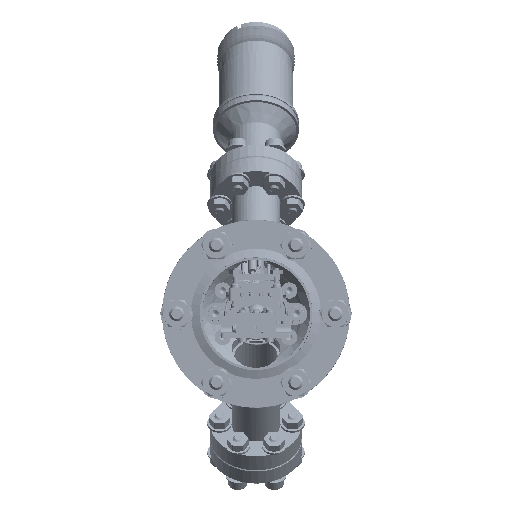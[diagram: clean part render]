
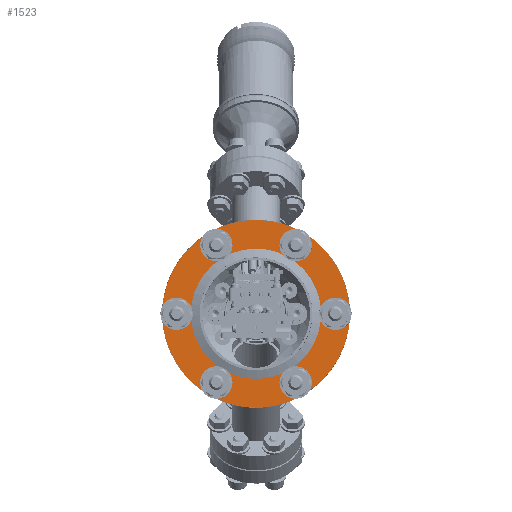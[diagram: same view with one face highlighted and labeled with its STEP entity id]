
A CAD part, left-side view. The second image highlights one B-rep face of the part: STEP entity #1523.
In plain terms, the highlighted planar face has unit normal (-1, 0, 0).
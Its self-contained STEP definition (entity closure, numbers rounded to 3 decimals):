
#1352=AXIS2_PLACEMENT_3D('Circle Axis2P3D',#1350,#1351,$) ;
#1377=AXIS2_PLACEMENT_3D('Circle Axis2P3D',#1375,#1376,$) ;
#1391=AXIS2_PLACEMENT_3D('Plane Axis2P3D',#1388,#1389,#1390) ;
#1395=AXIS2_PLACEMENT_3D('Circle Axis2P3D',#1393,#1394,$) ;
#1404=AXIS2_PLACEMENT_3D('Circle Axis2P3D',#1402,#1403,$) ;
#1413=AXIS2_PLACEMENT_3D('Circle Axis2P3D',#1411,#1412,$) ;
#1422=AXIS2_PLACEMENT_3D('Circle Axis2P3D',#1420,#1421,$) ;
#1435=AXIS2_PLACEMENT_3D('Circle Axis2P3D',#1433,#1434,$) ;
#1444=AXIS2_PLACEMENT_3D('Circle Axis2P3D',#1442,#1443,$) ;
#1453=AXIS2_PLACEMENT_3D('Circle Axis2P3D',#1451,#1452,$) ;
#1462=AXIS2_PLACEMENT_3D('Circle Axis2P3D',#1460,#1461,$) ;
#1471=AXIS2_PLACEMENT_3D('Circle Axis2P3D',#1469,#1470,$) ;
#1480=AXIS2_PLACEMENT_3D('Circle Axis2P3D',#1478,#1479,$) ;
#1489=AXIS2_PLACEMENT_3D('Circle Axis2P3D',#1487,#1488,$) ;
#1498=AXIS2_PLACEMENT_3D('Circle Axis2P3D',#1496,#1497,$) ;
#1507=AXIS2_PLACEMENT_3D('Circle Axis2P3D',#1505,#1506,$) ;
#1516=AXIS2_PLACEMENT_3D('Circle Axis2P3D',#1514,#1515,$) ;
#1347=CARTESIAN_POINT('Vertex',(0.,21.15,11.554)) ;
#1350=CARTESIAN_POINT('Axis2P3D Location',(0.,0.,0.)) ;
#1354=CARTESIAN_POINT('Vertex',(0.,-21.15,-11.554)) ;
#1375=CARTESIAN_POINT('Axis2P3D Location',(0.,0.,0.)) ;
#1388=CARTESIAN_POINT('Axis2P3D Location',(0.,24.1,0.)) ;
#1393=CARTESIAN_POINT('Axis2P3D Location',(0.,0.,0.)) ;
#1397=CARTESIAN_POINT('Vertex',(0.,30.496,16.66)) ;
#1399=CARTESIAN_POINT('Vertex',(0.,-30.496,-16.66)) ;
#1402=CARTESIAN_POINT('Axis2P3D Location',(0.,0.,0.)) ;
#1411=CARTESIAN_POINT('Axis2P3D Location',(0.,-29.35,0.)) ;
#1415=CARTESIAN_POINT('Vertex',(0.,-32.202,-1.558)) ;
#1417=CARTESIAN_POINT('Vertex',(0.,-26.498,1.558)) ;
#1420=CARTESIAN_POINT('Axis2P3D Location',(0.,-29.35,0.)) ;
#1433=CARTESIAN_POINT('Axis2P3D Location',(0.,-14.675,-25.418)) ;
#1437=CARTESIAN_POINT('Vertex',(0.,-11.823,-23.86)) ;
#1439=CARTESIAN_POINT('Vertex',(0.,-17.527,-26.976)) ;
#1442=CARTESIAN_POINT('Axis2P3D Location',(0.,-14.675,-25.418)) ;
#1451=CARTESIAN_POINT('Axis2P3D Location',(0.,14.675,-25.418)) ;
#1455=CARTESIAN_POINT('Vertex',(0.,17.527,-23.86)) ;
#1457=CARTESIAN_POINT('Vertex',(0.,11.823,-26.976)) ;
#1460=CARTESIAN_POINT('Axis2P3D Location',(0.,14.675,-25.418)) ;
#1469=CARTESIAN_POINT('Axis2P3D Location',(0.,29.35,0.)) ;
#1473=CARTESIAN_POINT('Vertex',(0.,32.202,1.558)) ;
#1475=CARTESIAN_POINT('Vertex',(0.,26.498,-1.558)) ;
#1478=CARTESIAN_POINT('Axis2P3D Location',(0.,29.35,0.)) ;
#1487=CARTESIAN_POINT('Axis2P3D Location',(0.,14.675,25.418)) ;
#1491=CARTESIAN_POINT('Vertex',(0.,17.527,26.976)) ;
#1493=CARTESIAN_POINT('Vertex',(0.,11.823,23.86)) ;
#1496=CARTESIAN_POINT('Axis2P3D Location',(0.,14.675,25.418)) ;
#1505=CARTESIAN_POINT('Axis2P3D Location',(0.,-14.675,25.418)) ;
#1509=CARTESIAN_POINT('Vertex',(0.,-11.823,26.976)) ;
#1511=CARTESIAN_POINT('Vertex',(0.,-17.527,23.86)) ;
#1514=CARTESIAN_POINT('Axis2P3D Location',(0.,-14.675,25.418)) ;
#1351=DIRECTION('Axis2P3D Direction',(1.,0.,-0.)) ;
#1376=DIRECTION('Axis2P3D Direction',(1.,0.,-0.)) ;
#1389=DIRECTION('Axis2P3D Direction',(1.,0.,0.)) ;
#1390=DIRECTION('Axis2P3D XDirection',(0.,1.,0.)) ;
#1394=DIRECTION('Axis2P3D Direction',(1.,0.,0.)) ;
#1403=DIRECTION('Axis2P3D Direction',(1.,0.,0.)) ;
#1412=DIRECTION('Axis2P3D Direction',(1.,0.,0.)) ;
#1421=DIRECTION('Axis2P3D Direction',(1.,0.,0.)) ;
#1434=DIRECTION('Axis2P3D Direction',(1.,0.,0.)) ;
#1443=DIRECTION('Axis2P3D Direction',(1.,0.,0.)) ;
#1452=DIRECTION('Axis2P3D Direction',(1.,0.,0.)) ;
#1461=DIRECTION('Axis2P3D Direction',(1.,0.,0.)) ;
#1470=DIRECTION('Axis2P3D Direction',(1.,0.,0.)) ;
#1479=DIRECTION('Axis2P3D Direction',(1.,0.,0.)) ;
#1488=DIRECTION('Axis2P3D Direction',(1.,0.,0.)) ;
#1497=DIRECTION('Axis2P3D Direction',(1.,0.,0.)) ;
#1506=DIRECTION('Axis2P3D Direction',(1.,0.,0.)) ;
#1515=DIRECTION('Axis2P3D Direction',(1.,0.,0.)) ;
#1408=ORIENTED_EDGE('',*,*,#1401,.F.) ;
#1409=ORIENTED_EDGE('',*,*,#1406,.F.) ;
#1426=ORIENTED_EDGE('',*,*,#1419,.T.) ;
#1427=ORIENTED_EDGE('',*,*,#1424,.T.) ;
#1430=ORIENTED_EDGE('',*,*,#1356,.T.) ;
#1431=ORIENTED_EDGE('',*,*,#1379,.T.) ;
#1448=ORIENTED_EDGE('',*,*,#1441,.T.) ;
#1449=ORIENTED_EDGE('',*,*,#1446,.T.) ;
#1466=ORIENTED_EDGE('',*,*,#1459,.T.) ;
#1467=ORIENTED_EDGE('',*,*,#1464,.T.) ;
#1484=ORIENTED_EDGE('',*,*,#1477,.T.) ;
#1485=ORIENTED_EDGE('',*,*,#1482,.T.) ;
#1502=ORIENTED_EDGE('',*,*,#1495,.T.) ;
#1503=ORIENTED_EDGE('',*,*,#1500,.T.) ;
#1520=ORIENTED_EDGE('',*,*,#1513,.T.) ;
#1521=ORIENTED_EDGE('',*,*,#1518,.T.) ;
#1428=FACE_BOUND('',#1425,.T.) ;
#1432=FACE_BOUND('',#1429,.T.) ;
#1450=FACE_BOUND('',#1447,.T.) ;
#1468=FACE_BOUND('',#1465,.T.) ;
#1486=FACE_BOUND('',#1483,.T.) ;
#1504=FACE_BOUND('',#1501,.T.) ;
#1522=FACE_BOUND('',#1519,.T.) ;
#1523=ADVANCED_FACE('Brep With Voids.1',(#1410,#1428,#1432,#1450,#1468,#1486,#1504,#1522),#1392,.F.) ;
#1353=CIRCLE('generated circle',#1352,24.1) ;
#1378=CIRCLE('generated circle',#1377,24.1) ;
#1396=CIRCLE('generated circle',#1395,34.75) ;
#1405=CIRCLE('generated circle',#1404,34.75) ;
#1414=CIRCLE('generated circle',#1413,3.25) ;
#1423=CIRCLE('generated circle',#1422,3.25) ;
#1436=CIRCLE('generated circle',#1435,3.25) ;
#1445=CIRCLE('generated circle',#1444,3.25) ;
#1454=CIRCLE('generated circle',#1453,3.25) ;
#1463=CIRCLE('generated circle',#1462,3.25) ;
#1472=CIRCLE('generated circle',#1471,3.25) ;
#1481=CIRCLE('generated circle',#1480,3.25) ;
#1490=CIRCLE('generated circle',#1489,3.25) ;
#1499=CIRCLE('generated circle',#1498,3.25) ;
#1508=CIRCLE('generated circle',#1507,3.25) ;
#1517=CIRCLE('generated circle',#1516,3.25) ;
#1356=EDGE_CURVE('',#1355,#1348,#1353,.T.) ;
#1379=EDGE_CURVE('',#1348,#1355,#1378,.T.) ;
#1401=EDGE_CURVE('',#1398,#1400,#1396,.T.) ;
#1406=EDGE_CURVE('',#1400,#1398,#1405,.T.) ;
#1419=EDGE_CURVE('',#1416,#1418,#1414,.T.) ;
#1424=EDGE_CURVE('',#1418,#1416,#1423,.T.) ;
#1441=EDGE_CURVE('',#1438,#1440,#1436,.T.) ;
#1446=EDGE_CURVE('',#1440,#1438,#1445,.T.) ;
#1459=EDGE_CURVE('',#1456,#1458,#1454,.T.) ;
#1464=EDGE_CURVE('',#1458,#1456,#1463,.T.) ;
#1477=EDGE_CURVE('',#1474,#1476,#1472,.T.) ;
#1482=EDGE_CURVE('',#1476,#1474,#1481,.T.) ;
#1495=EDGE_CURVE('',#1492,#1494,#1490,.T.) ;
#1500=EDGE_CURVE('',#1494,#1492,#1499,.T.) ;
#1513=EDGE_CURVE('',#1510,#1512,#1508,.T.) ;
#1518=EDGE_CURVE('',#1512,#1510,#1517,.T.) ;
#1407=EDGE_LOOP('',(#1408,#1409)) ;
#1425=EDGE_LOOP('',(#1426,#1427)) ;
#1429=EDGE_LOOP('',(#1430,#1431)) ;
#1447=EDGE_LOOP('',(#1448,#1449)) ;
#1465=EDGE_LOOP('',(#1466,#1467)) ;
#1483=EDGE_LOOP('',(#1484,#1485)) ;
#1501=EDGE_LOOP('',(#1502,#1503)) ;
#1519=EDGE_LOOP('',(#1520,#1521)) ;
#1410=FACE_OUTER_BOUND('',#1407,.T.) ;
#1392=PLANE('',#1391) ;
#1348=VERTEX_POINT('',#1347) ;
#1355=VERTEX_POINT('',#1354) ;
#1398=VERTEX_POINT('',#1397) ;
#1400=VERTEX_POINT('',#1399) ;
#1416=VERTEX_POINT('',#1415) ;
#1418=VERTEX_POINT('',#1417) ;
#1438=VERTEX_POINT('',#1437) ;
#1440=VERTEX_POINT('',#1439) ;
#1456=VERTEX_POINT('',#1455) ;
#1458=VERTEX_POINT('',#1457) ;
#1474=VERTEX_POINT('',#1473) ;
#1476=VERTEX_POINT('',#1475) ;
#1492=VERTEX_POINT('',#1491) ;
#1494=VERTEX_POINT('',#1493) ;
#1510=VERTEX_POINT('',#1509) ;
#1512=VERTEX_POINT('',#1511) ;
